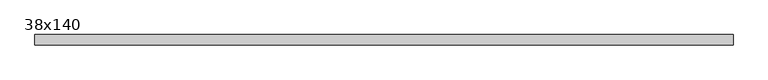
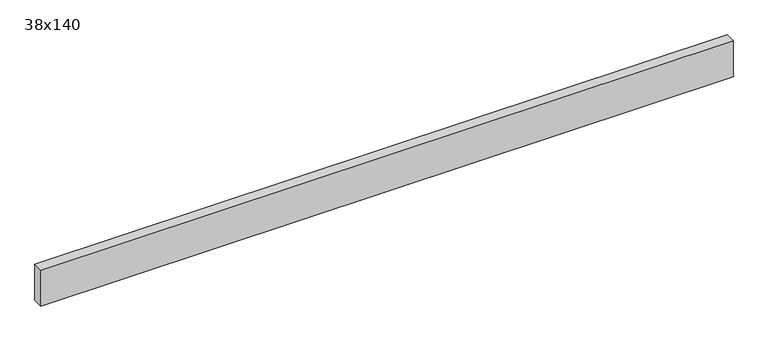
"""IFC4 building model written with IfcOpenShell, lengths in millimetres: beam geometry, Graded Timber : 38x140."""

from ifc_helpers import new_model, si_unit, frame, origin, place, context, project, spatial, polyline, outline, extrude, source, transform, mapped, element, save


def beam_38x140_b259245b(model_context):
    return source(origin(), model_context, "Body", "SweptSolid", [
        extrude(outline(polyline([(1267.3443689, 19.0), (1267.3443689, -19.0), (-1277.9645346, -19.0), (-1277.9645346, 19.0), (1267.3443689, 19.0)])), frame((0.0, 0.0, -70.0), z_axis=(0.0, 0.0, 1.0), x_axis=(1.0, 0.0, 0.0)), (0.0, 0.0, 1.0), 140.0),
    ])


if __name__ == "__main__":
    model = new_model("IFC4")
    model_context = context("Model", 3, world=origin())
    ifc_project = project(units=[si_unit("LENGTHUNIT", "METRE", prefix="MILLI")], contexts=[model_context])
    site = spatial("IfcSite", under=ifc_project)
    building = spatial("IfcBuilding", under=site)
    placement = place(None, origin())
    beam_38x140_shape = beam_38x140_b259245b(model_context)
    element("IfcBeam", 1, ObjectType="Graded Timber : 38x140", at=placement, inside=building, context=model_context, shape_type="MappedRepresentation", body=[
        mapped(beam_38x140_shape, transform((0.0, 0.0, 0.0), x_axis=(1.0, 0.0, 0.0), y_axis=(0.0, 1.0, 0.0), z_axis=(0.0, 0.0, 1.0))),
    ])
    save(model, "model.ifc")
